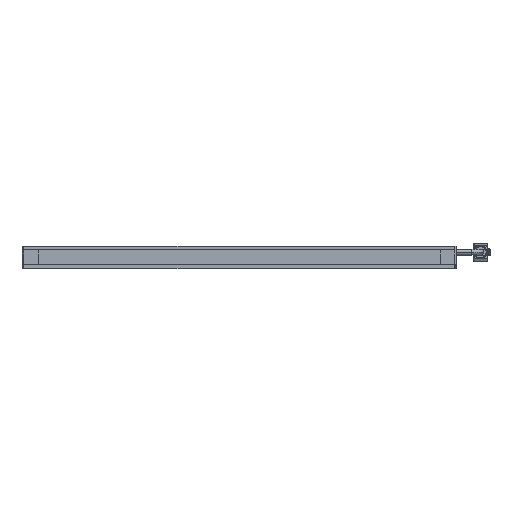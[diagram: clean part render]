
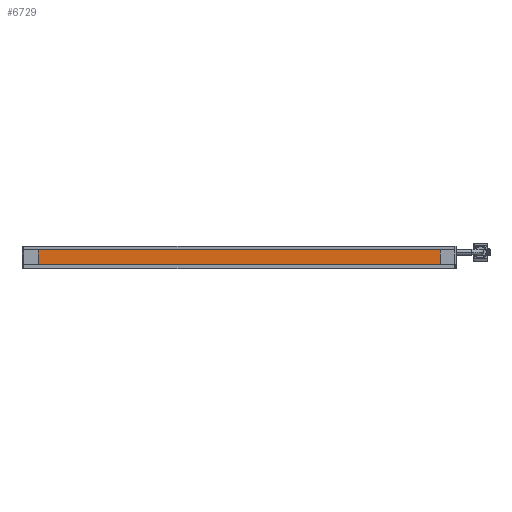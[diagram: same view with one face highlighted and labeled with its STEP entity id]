
A CAD part, front view. The second image highlights one B-rep face of the part: STEP entity #6729.
In plain terms, the highlighted planar face has unit normal (0, -1, 0).
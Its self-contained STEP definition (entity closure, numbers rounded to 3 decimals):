
#20 = CARTESIAN_POINT ( 'NONE',  ( 115.7, -210., -8.5 ) ) ;
#175 = CARTESIAN_POINT ( 'NONE',  ( -115.7, -210., -8.5 ) ) ;
#744 = CARTESIAN_POINT ( 'NONE',  ( -115.7, -210., 0. ) ) ;
#891 = CARTESIAN_POINT ( 'NONE',  ( 115.7, -210., 0. ) ) ;
#899 = EDGE_CURVE ( 'NONE', #4324, #921, #8422, .T. ) ;
#921 = VERTEX_POINT ( 'NONE', #891 ) ;
#943 = VECTOR ( 'NONE', #4402, 1000. ) ;
#1388 = ORIENTED_EDGE ( 'NONE', *, *, #4706, .F. ) ;
#1736 = VECTOR ( 'NONE', #4286, 1000. ) ;
#1928 = FACE_OUTER_BOUND ( 'NONE', #4373, .T. ) ;
#2138 = VERTEX_POINT ( 'NONE', #4119 ) ;
#2188 = VERTEX_POINT ( 'NONE', #3572 ) ;
#2795 = PLANE ( 'NONE',  #7741 ) ;
#2995 = DIRECTION ( 'NONE',  ( 0., 1., 0. ) ) ;
#3253 = ORIENTED_EDGE ( 'NONE', *, *, #8319, .T. ) ;
#3572 = CARTESIAN_POINT ( 'NONE',  ( -115.7, -210., -8.5 ) ) ;
#3624 = DIRECTION ( 'NONE',  ( 0., 0., -1. ) ) ;
#3633 = DIRECTION ( 'NONE',  ( 0., 0., 1. ) ) ;
#3654 = LINE ( 'NONE', #744, #1736 ) ;
#4119 = CARTESIAN_POINT ( 'NONE',  ( -115.7, -210., 0. ) ) ;
#4286 = DIRECTION ( 'NONE',  ( 1., 0., 0. ) ) ;
#4324 = VERTEX_POINT ( 'NONE', #20 ) ;
#4373 = EDGE_LOOP ( 'NONE', ( #5851, #7797, #1388, #3253 ) ) ;
#4402 = DIRECTION ( 'NONE',  ( 1., 0., 0. ) ) ;
#4706 = EDGE_CURVE ( 'NONE', #2188, #2138, #7013, .T. ) ;
#4756 = CARTESIAN_POINT ( 'NONE',  ( -115.7, -210., 0. ) ) ;
#5113 = VECTOR ( 'NONE', #8329, 1000. ) ;
#5851 = ORIENTED_EDGE ( 'NONE', *, *, #899, .T. ) ;
#6729 = ADVANCED_FACE ( 'NONE', ( #1928 ), #2795, .F. ) ;
#7013 = LINE ( 'NONE', #4756, #5113 ) ;
#7276 = CARTESIAN_POINT ( 'NONE',  ( -115.7, -210., 0. ) ) ;
#7588 = LINE ( 'NONE', #175, #943 ) ;
#7741 = AXIS2_PLACEMENT_3D ( 'NONE', #7276, #2995, #3624 ) ;
#7797 = ORIENTED_EDGE ( 'NONE', *, *, #8210, .F. ) ;
#8043 = CARTESIAN_POINT ( 'NONE',  ( 115.7, -210., 0. ) ) ;
#8074 = VECTOR ( 'NONE', #3633, 1000. ) ;
#8210 = EDGE_CURVE ( 'NONE', #2138, #921, #3654, .T. ) ;
#8319 = EDGE_CURVE ( 'NONE', #2188, #4324, #7588, .T. ) ;
#8329 = DIRECTION ( 'NONE',  ( 0., 0., 1. ) ) ;
#8422 = LINE ( 'NONE', #8043, #8074 ) ;
